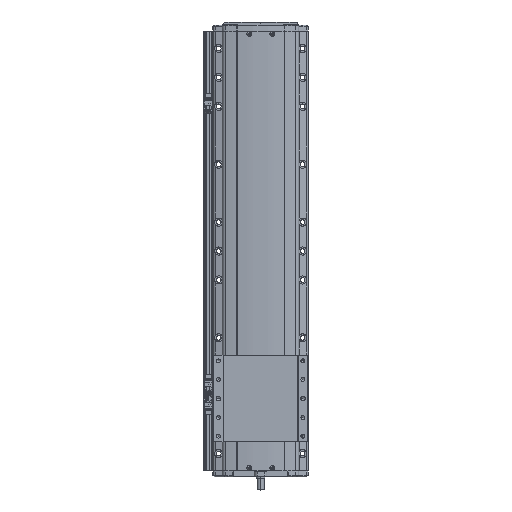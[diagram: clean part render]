
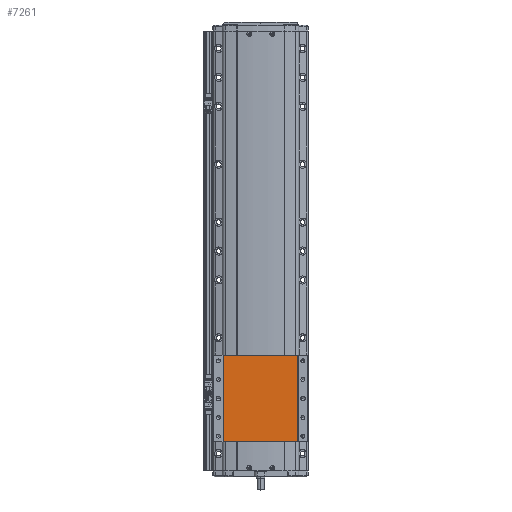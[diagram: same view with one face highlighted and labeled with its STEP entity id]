
A CAD part, top view. The second image highlights one B-rep face of the part: STEP entity #7261.
In plain terms, the highlighted planar face has unit normal (0, 0, 1).
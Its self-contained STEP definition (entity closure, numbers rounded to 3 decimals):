
#7261=ADVANCED_FACE('',(#14711),#14712,.F.);
#14711=FACE_OUTER_BOUND('',#24289,.T.);
#14712=PLANE('',#24290);
#24289=EDGE_LOOP('',(#45785,#45786,#45787,#45788));
#24290=AXIS2_PLACEMENT_3D('',#45789,#45790,#45791);
#45785=ORIENTED_EDGE('',*,*,#55638,.F.);
#45786=ORIENTED_EDGE('',*,*,#54719,.F.);
#45787=ORIENTED_EDGE('',*,*,#55639,.F.);
#45788=ORIENTED_EDGE('',*,*,#51701,.T.);
#45789=CARTESIAN_POINT('',(-600.,122.222,51.5));
#45790=DIRECTION('',(0.,0.,-1.0));
#45791=DIRECTION('',(-1.0,0.,0.));
#51701=EDGE_CURVE('',#63497,#63494,#63498,.T.);
#54719=EDGE_CURVE('',#67500,#67496,#67502,.T.);
#55638=EDGE_CURVE('',#67496,#63494,#68478,.T.);
#55639=EDGE_CURVE('',#63497,#67500,#68479,.T.);
#63494=VERTEX_POINT('',#79950);
#63497=VERTEX_POINT('',#79953);
#63498=LINE('',#79954,#79955);
#67496=VERTEX_POINT('',#86027);
#67500=VERTEX_POINT('',#86032);
#67502=LINE('',#86034,#86035);
#68478=LINE('',#87432,#87433);
#68479=LINE('',#87434,#87435);
#79950=CARTESIAN_POINT('',(-535.624,272.222,51.5));
#79953=CARTESIAN_POINT('',(-535.624,122.222,51.5));
#79954=CARTESIAN_POINT('',(-535.624,122.222,51.5));
#79955=VECTOR('',#93412,10.0);
#86027=CARTESIAN_POINT('',(-664.376,272.222,51.5));
#86032=CARTESIAN_POINT('',(-664.376,122.222,51.5));
#86034=CARTESIAN_POINT('',(-664.376,122.222,51.5));
#86035=VECTOR('',#96648,10.0);
#87432=CARTESIAN_POINT('',(-535.624,272.222,51.5));
#87433=VECTOR('',#97304,10.0);
#87434=CARTESIAN_POINT('',(-535.624,122.222,51.5));
#87435=VECTOR('',#97305,10.0);
#93412=DIRECTION('',(0.,1.0,0.));
#96648=DIRECTION('',(0.,1.0,0.));
#97304=DIRECTION('',(1.0,0.,0.));
#97305=DIRECTION('',(-1.0,0.,0.));
